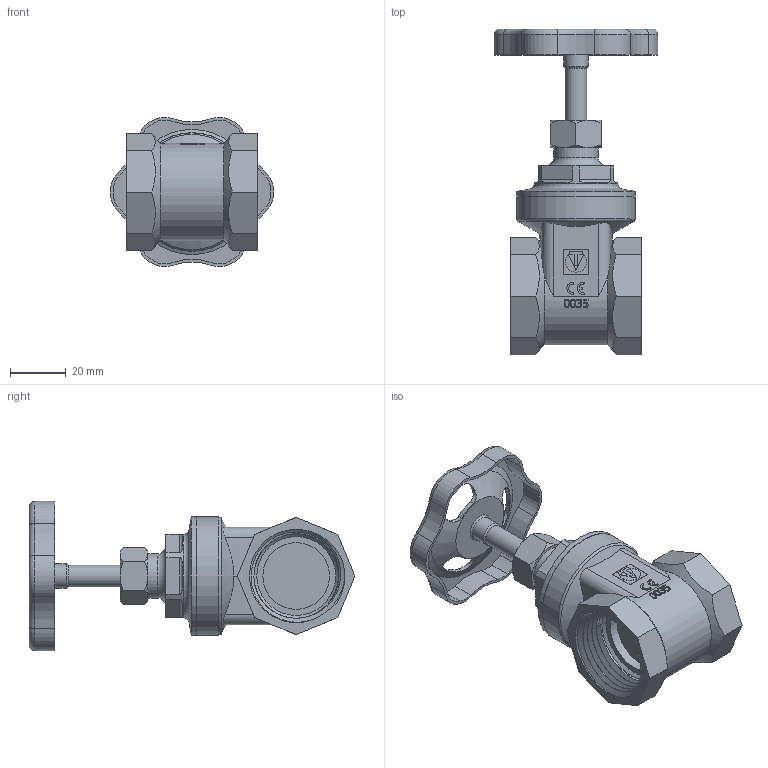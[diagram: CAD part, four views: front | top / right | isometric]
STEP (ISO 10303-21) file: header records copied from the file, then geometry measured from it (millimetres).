
FILE_DESCRIPTION(/* description */ (''),/* implementation_level */ '2;1');
FILE_NAME(/* name */ 'F:\Артём\00000\Работа удаленка\Вентили и задвижки\VT.012.G.06.stp',/* time_stamp */ '2020-11-05T15:28:16+03:00',/* author */ ('almis'),/* organization */ (''),/* preprocessor_version */ 'ST-DEVELOPER v18',/* originating_system */ 'Autodesk Inventor 2020',/* authorisation */ '');
FILE_SCHEMA (('AUTOMOTIVE_DESIGN { 1 0 10303 214 3 1 1 }'));
Length unit declared in the file: millimetre
Products named in the file (1): VT.012_3
Bounding box: 58.96 x 117.19 x 53.73 mm (x, y, z)
Volume: 52630.1 mm3; surface area: 35446.9 mm2
Topology: 1 solids, 2 shells, 498 faces, 1339 edges, 893 vertices
Faces by surface type: plane 187, cylinder 146, bspline 90, cone 57, torus 18
Full cylindrical faces by diameter (mm): 7 x1, 7.7 x1, 8 x3, 8.5 x1, 8.65 x1, 10 x3, 10.5 x1, 11.5 x1, 11.75 x1, 16 x1, 22 x1, 24 x2, 24.6 x1, 30 x1, 30.4 x7, 32 x1, 35 x8, 35.5 x1, 42.5 x1, 42.7 x1
Entity records: 21395 total; most frequent: CARTESIAN_POINT 9514, ORIENTED_EDGE 2678, DIRECTION 2192, EDGE_CURVE 1339, VERTEX_POINT 893, AXIS2_PLACEMENT_3D 815, LINE 562, VECTOR 562
